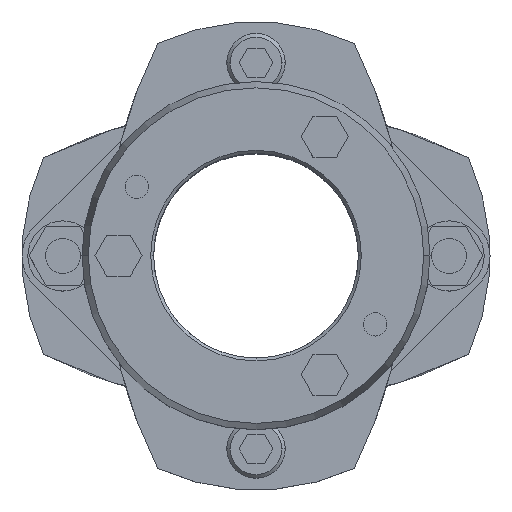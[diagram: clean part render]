
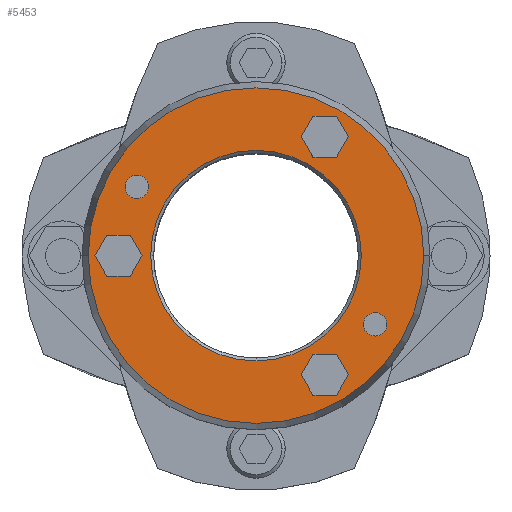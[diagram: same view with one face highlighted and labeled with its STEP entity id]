
A CAD part, top view. The second image highlights one B-rep face of the part: STEP entity #5453.
In plain terms, the highlighted planar face has unit normal (0, 0, 1).
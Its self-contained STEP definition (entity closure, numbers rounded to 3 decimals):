
#875=CARTESIAN_POINT('',(-18.,0.,35.875));
#876=VERTEX_POINT('',#875);
#892=CARTESIAN_POINT('',(18.,0.,35.875));
#893=VERTEX_POINT('',#892);
#900=CARTESIAN_POINT('',(0.,0.,35.875));
#901=DIRECTION('',(0.0,0.0,1.0));
#902=DIRECTION('',(-1.0,0.0,0.0));
#903=AXIS2_PLACEMENT_3D('',#900,#901,#902);
#904=CIRCLE('',#903,18.0);
#905=EDGE_CURVE('',#893,#876,#904,.T.);
#1063=CARTESIAN_POINT('',(28.678,0.,35.875));
#1064=VERTEX_POINT('',#1063);
#1071=CARTESIAN_POINT('',(-28.678,0.,35.875));
#1072=VERTEX_POINT('',#1071);
#1073=CARTESIAN_POINT('',(0.,0.,35.875));
#1074=DIRECTION('',(0.0,0.0,-1.0));
#1075=DIRECTION('',(1.0,0.0,0.0));
#1076=AXIS2_PLACEMENT_3D('',#1073,#1074,#1075);
#1077=CIRCLE('',#1076,28.678);
#1078=EDGE_CURVE('',#1064,#1072,#1077,.T.);
#1191=CARTESIAN_POINT('',(18.352,-11.75,35.875));
#1192=VERTEX_POINT('',#1191);
#1208=CARTESIAN_POINT('',(22.352,-11.75,35.875));
#1209=VERTEX_POINT('',#1208);
#1216=CARTESIAN_POINT('',(20.352,-11.75,35.875));
#1217=DIRECTION('',(0.0,0.0,-1.0));
#1218=DIRECTION('',(-1.0,0.0,0.0));
#1219=AXIS2_PLACEMENT_3D('',#1216,#1217,#1218);
#1220=CIRCLE('',#1219,2.0);
#1221=EDGE_CURVE('',#1192,#1209,#1220,.T.);
#1233=CARTESIAN_POINT('',(-22.352,11.75,35.875));
#1234=VERTEX_POINT('',#1233);
#1250=CARTESIAN_POINT('',(-18.352,11.75,35.875));
#1251=VERTEX_POINT('',#1250);
#1258=CARTESIAN_POINT('',(-20.352,11.75,35.875));
#1259=DIRECTION('',(0.0,0.0,-1.0));
#1260=DIRECTION('',(-1.0,0.0,0.0));
#1261=AXIS2_PLACEMENT_3D('',#1258,#1259,#1260);
#1262=CIRCLE('',#1261,2.0);
#1263=EDGE_CURVE('',#1234,#1251,#1262,.T.);
#4466=CARTESIAN_POINT('',(-20.352,11.75,35.875));
#4467=DIRECTION('',(0.0,0.0,-1.0));
#4468=DIRECTION('',(-1.0,0.0,0.0));
#4469=AXIS2_PLACEMENT_3D('',#4466,#4467,#4468);
#4470=CIRCLE('',#4469,2.0);
#4471=EDGE_CURVE('',#1251,#1234,#4470,.T.);
#4500=CARTESIAN_POINT('',(20.352,-11.75,35.875));
#4501=DIRECTION('',(0.0,0.0,-1.0));
#4502=DIRECTION('',(-1.0,0.0,0.0));
#4503=AXIS2_PLACEMENT_3D('',#4500,#4501,#4502);
#4504=CIRCLE('',#4503,2.0);
#4505=EDGE_CURVE('',#1209,#1192,#4504,.T.);
#4543=CARTESIAN_POINT('',(-27.541,0.,35.875));
#4544=VERTEX_POINT('',#4543);
#4551=CARTESIAN_POINT('',(-25.521,-3.5,35.875));
#4552=VERTEX_POINT('',#4551);
#4553=CARTESIAN_POINT('',(-25.521,-3.5,35.875));
#4554=DIRECTION('',(-0.5,0.866,0.0));
#4555=VECTOR('',#4554,4.041);
#4556=LINE('',#4553,#4555);
#4557=EDGE_CURVE('',#4552,#4544,#4556,.T.);
#4581=CARTESIAN_POINT('',(-25.521,3.5,35.875));
#4582=VERTEX_POINT('',#4581);
#4589=CARTESIAN_POINT('',(-27.541,0.,35.875));
#4590=DIRECTION('',(0.5,0.866,0.0));
#4591=VECTOR('',#4590,4.041);
#4592=LINE('',#4589,#4591);
#4593=EDGE_CURVE('',#4544,#4582,#4592,.T.);
#4612=CARTESIAN_POINT('',(-21.479,3.5,35.875));
#4613=VERTEX_POINT('',#4612);
#4620=CARTESIAN_POINT('',(-25.521,3.5,35.875));
#4621=DIRECTION('',(1.0,0.0,0.0));
#4622=VECTOR('',#4621,4.041);
#4623=LINE('',#4620,#4622);
#4624=EDGE_CURVE('',#4582,#4613,#4623,.T.);
#4643=CARTESIAN_POINT('',(-19.459,0.,35.875));
#4644=VERTEX_POINT('',#4643);
#4651=CARTESIAN_POINT('',(-21.479,3.5,35.875));
#4652=DIRECTION('',(0.5,-0.866,0.0));
#4653=VECTOR('',#4652,4.041);
#4654=LINE('',#4651,#4653);
#4655=EDGE_CURVE('',#4613,#4644,#4654,.T.);
#4674=CARTESIAN_POINT('',(-21.479,-3.5,35.875));
#4675=VERTEX_POINT('',#4674);
#4682=CARTESIAN_POINT('',(-19.459,0.,35.875));
#4683=DIRECTION('',(-0.5,-0.866,0.0));
#4684=VECTOR('',#4683,4.041);
#4685=LINE('',#4682,#4684);
#4686=EDGE_CURVE('',#4644,#4675,#4685,.T.);
#4704=CARTESIAN_POINT('',(-21.479,-3.5,35.875));
#4705=DIRECTION('',(-1.0,0.0,0.0));
#4706=VECTOR('',#4705,4.041);
#4707=LINE('',#4704,#4706);
#4708=EDGE_CURVE('',#4675,#4552,#4707,.T.);
#4743=CARTESIAN_POINT('',(7.709,20.352,35.875));
#4744=VERTEX_POINT('',#4743);
#4751=CARTESIAN_POINT('',(9.729,16.852,35.875));
#4752=VERTEX_POINT('',#4751);
#4753=CARTESIAN_POINT('',(9.729,16.852,35.875));
#4754=DIRECTION('',(-0.5,0.866,0.0));
#4755=VECTOR('',#4754,4.041);
#4756=LINE('',#4753,#4755);
#4757=EDGE_CURVE('',#4752,#4744,#4756,.T.);
#4781=CARTESIAN_POINT('',(9.729,23.852,35.875));
#4782=VERTEX_POINT('',#4781);
#4789=CARTESIAN_POINT('',(7.709,20.352,35.875));
#4790=DIRECTION('',(0.5,0.866,0.0));
#4791=VECTOR('',#4790,4.041);
#4792=LINE('',#4789,#4791);
#4793=EDGE_CURVE('',#4744,#4782,#4792,.T.);
#4812=CARTESIAN_POINT('',(13.771,23.852,35.875));
#4813=VERTEX_POINT('',#4812);
#4820=CARTESIAN_POINT('',(9.729,23.852,35.875));
#4821=DIRECTION('',(1.0,0.0,0.0));
#4822=VECTOR('',#4821,4.041);
#4823=LINE('',#4820,#4822);
#4824=EDGE_CURVE('',#4782,#4813,#4823,.T.);
#4843=CARTESIAN_POINT('',(15.791,20.352,35.875));
#4844=VERTEX_POINT('',#4843);
#4851=CARTESIAN_POINT('',(13.771,23.852,35.875));
#4852=DIRECTION('',(0.5,-0.866,0.0));
#4853=VECTOR('',#4852,4.041);
#4854=LINE('',#4851,#4853);
#4855=EDGE_CURVE('',#4813,#4844,#4854,.T.);
#4874=CARTESIAN_POINT('',(13.771,16.852,35.875));
#4875=VERTEX_POINT('',#4874);
#4882=CARTESIAN_POINT('',(15.791,20.352,35.875));
#4883=DIRECTION('',(-0.5,-0.866,0.0));
#4884=VECTOR('',#4883,4.041);
#4885=LINE('',#4882,#4884);
#4886=EDGE_CURVE('',#4844,#4875,#4885,.T.);
#4904=CARTESIAN_POINT('',(13.771,16.852,35.875));
#4905=DIRECTION('',(-1.0,0.0,0.0));
#4906=VECTOR('',#4905,4.041);
#4907=LINE('',#4904,#4906);
#4908=EDGE_CURVE('',#4875,#4752,#4907,.T.);
#4943=CARTESIAN_POINT('',(7.709,-20.352,35.875));
#4944=VERTEX_POINT('',#4943);
#4951=CARTESIAN_POINT('',(9.729,-23.852,35.875));
#4952=VERTEX_POINT('',#4951);
#4953=CARTESIAN_POINT('',(9.729,-23.852,35.875));
#4954=DIRECTION('',(-0.5,0.866,0.0));
#4955=VECTOR('',#4954,4.041);
#4956=LINE('',#4953,#4955);
#4957=EDGE_CURVE('',#4952,#4944,#4956,.T.);
#4981=CARTESIAN_POINT('',(9.729,-16.852,35.875));
#4982=VERTEX_POINT('',#4981);
#4989=CARTESIAN_POINT('',(7.709,-20.352,35.875));
#4990=DIRECTION('',(0.5,0.866,0.0));
#4991=VECTOR('',#4990,4.041);
#4992=LINE('',#4989,#4991);
#4993=EDGE_CURVE('',#4944,#4982,#4992,.T.);
#5012=CARTESIAN_POINT('',(13.771,-16.852,35.875));
#5013=VERTEX_POINT('',#5012);
#5020=CARTESIAN_POINT('',(9.729,-16.852,35.875));
#5021=DIRECTION('',(1.0,0.0,0.0));
#5022=VECTOR('',#5021,4.041);
#5023=LINE('',#5020,#5022);
#5024=EDGE_CURVE('',#4982,#5013,#5023,.T.);
#5043=CARTESIAN_POINT('',(15.791,-20.352,35.875));
#5044=VERTEX_POINT('',#5043);
#5051=CARTESIAN_POINT('',(13.771,-16.852,35.875));
#5052=DIRECTION('',(0.5,-0.866,0.0));
#5053=VECTOR('',#5052,4.041);
#5054=LINE('',#5051,#5053);
#5055=EDGE_CURVE('',#5013,#5044,#5054,.T.);
#5074=CARTESIAN_POINT('',(13.771,-23.852,35.875));
#5075=VERTEX_POINT('',#5074);
#5082=CARTESIAN_POINT('',(15.791,-20.352,35.875));
#5083=DIRECTION('',(-0.5,-0.866,0.0));
#5084=VECTOR('',#5083,4.041);
#5085=LINE('',#5082,#5084);
#5086=EDGE_CURVE('',#5044,#5075,#5085,.T.);
#5104=CARTESIAN_POINT('',(13.771,-23.852,35.875));
#5105=DIRECTION('',(-1.0,0.0,0.0));
#5106=VECTOR('',#5105,4.041);
#5107=LINE('',#5104,#5106);
#5108=EDGE_CURVE('',#5075,#4952,#5107,.T.);
#5392=CARTESIAN_POINT('',(0.,0.,35.875));
#5393=DIRECTION('',(0.0,0.0,-1.0));
#5394=DIRECTION('',(1.0,0.0,0.0));
#5395=AXIS2_PLACEMENT_3D('',#5392,#5393,#5394);
#5396=CIRCLE('',#5395,28.678);
#5397=EDGE_CURVE('',#1072,#1064,#5396,.T.);
#5402=CARTESIAN_POINT('',(-2.364,0.,35.875));
#5403=DIRECTION('',(0.0,0.0,1.0));
#5404=DIRECTION('',(-1.0,0.0,0.0));
#5405=AXIS2_PLACEMENT_3D('',#5402,#5403,#5404);
#5406=PLANE('',#5405);
#5407=ORIENTED_EDGE('',*,*,#5397,.F.);
#5408=ORIENTED_EDGE('',*,*,#1078,.F.);
#5409=EDGE_LOOP('',(#5407,#5408));
#5410=FACE_OUTER_BOUND('',#5409,.T.);
#5411=ORIENTED_EDGE('',*,*,#1263,.T.);
#5412=ORIENTED_EDGE('',*,*,#4471,.T.);
#5413=EDGE_LOOP('',(#5411,#5412));
#5414=FACE_BOUND('',#5413,.T.);
#5415=ORIENTED_EDGE('',*,*,#1221,.T.);
#5416=ORIENTED_EDGE('',*,*,#4505,.T.);
#5417=EDGE_LOOP('',(#5415,#5416));
#5418=FACE_BOUND('',#5417,.T.);
#5419=ORIENTED_EDGE('',*,*,#4557,.T.);
#5420=ORIENTED_EDGE('',*,*,#4593,.T.);
#5421=ORIENTED_EDGE('',*,*,#4624,.T.);
#5422=ORIENTED_EDGE('',*,*,#4655,.T.);
#5423=ORIENTED_EDGE('',*,*,#4686,.T.);
#5424=ORIENTED_EDGE('',*,*,#4708,.T.);
#5425=EDGE_LOOP('',(#5419,#5420,#5421,#5422,#5423,#5424));
#5426=FACE_BOUND('',#5425,.T.);
#5427=ORIENTED_EDGE('',*,*,#4757,.T.);
#5428=ORIENTED_EDGE('',*,*,#4793,.T.);
#5429=ORIENTED_EDGE('',*,*,#4824,.T.);
#5430=ORIENTED_EDGE('',*,*,#4855,.T.);
#5431=ORIENTED_EDGE('',*,*,#4886,.T.);
#5432=ORIENTED_EDGE('',*,*,#4908,.T.);
#5433=EDGE_LOOP('',(#5427,#5428,#5429,#5430,#5431,#5432));
#5434=FACE_BOUND('',#5433,.T.);
#5435=ORIENTED_EDGE('',*,*,#4957,.T.);
#5436=ORIENTED_EDGE('',*,*,#4993,.T.);
#5437=ORIENTED_EDGE('',*,*,#5024,.T.);
#5438=ORIENTED_EDGE('',*,*,#5055,.T.);
#5439=ORIENTED_EDGE('',*,*,#5086,.T.);
#5440=ORIENTED_EDGE('',*,*,#5108,.T.);
#5441=EDGE_LOOP('',(#5435,#5436,#5437,#5438,#5439,#5440));
#5442=FACE_BOUND('',#5441,.T.);
#5443=ORIENTED_EDGE('',*,*,#905,.F.);
#5444=CARTESIAN_POINT('',(0.,0.,35.875));
#5445=DIRECTION('',(0.0,0.0,1.0));
#5446=DIRECTION('',(-1.0,0.0,0.0));
#5447=AXIS2_PLACEMENT_3D('',#5444,#5445,#5446);
#5448=CIRCLE('',#5447,18.0);
#5449=EDGE_CURVE('',#876,#893,#5448,.T.);
#5450=ORIENTED_EDGE('',*,*,#5449,.F.);
#5451=EDGE_LOOP('',(#5443,#5450));
#5452=FACE_BOUND('',#5451,.T.);
#5453=ADVANCED_FACE('',(#5410,#5414,#5418,#5426,#5434,#5442,#5452),#5406,.T.);
